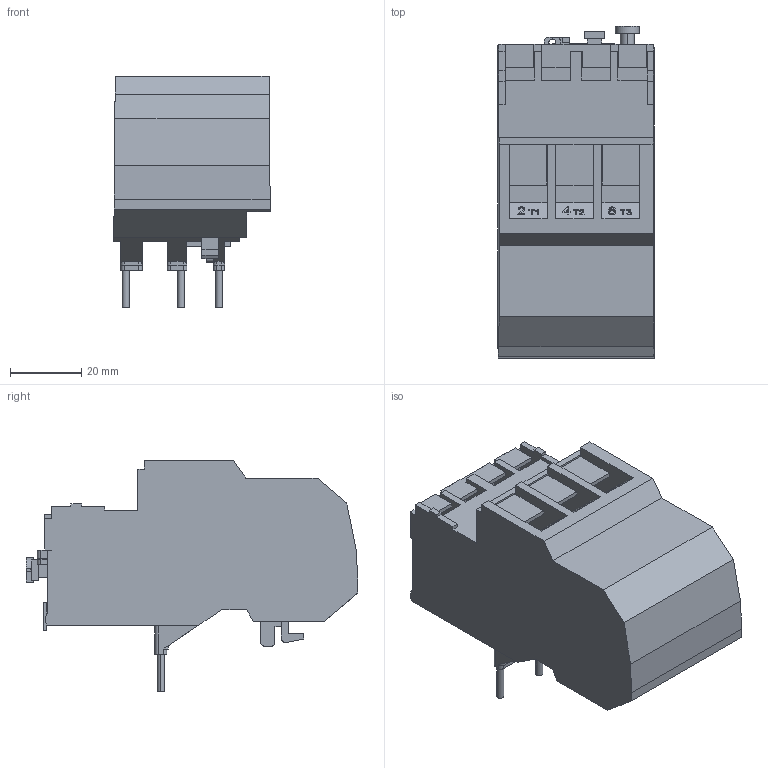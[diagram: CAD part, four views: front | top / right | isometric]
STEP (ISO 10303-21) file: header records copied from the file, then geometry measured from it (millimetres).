
FILE_DESCRIPTION (( 'STEP AP214' ), '1' );
FILE_NAME ('ﾐﾒﾋ-1000 (9-12ﾀ).STEP', '2023-01-09T13:45:56', ( '' ), ( '' ), 'SwSTEP 2.0', 'SolidWorks 2018', '' );
FILE_SCHEMA (( 'AUTOMOTIVE_DESIGN' ));
Length unit declared in the file: millimetre
Products named in the file (1): ﾐﾒﾋ-1000 (9-12ﾀ)
Bounding box: 43.93 x 93.2 x 65 mm (x, y, z)
Volume: 131363 mm3; surface area: 23833.7 mm2
Topology: 13 solids, 13 shells, 679 faces, 1843 edges, 1222 vertices
Faces by surface type: plane 413, bspline 209, cylinder 57
Entity records: 33290 total; most frequent: CARTESIAN_POINT 17295, ORIENTED_EDGE 3686, DIRECTION 2477, EDGE_CURVE 1843, VECTOR 1301, LINE 1301, VERTEX_POINT 1222, EDGE_LOOP 745
